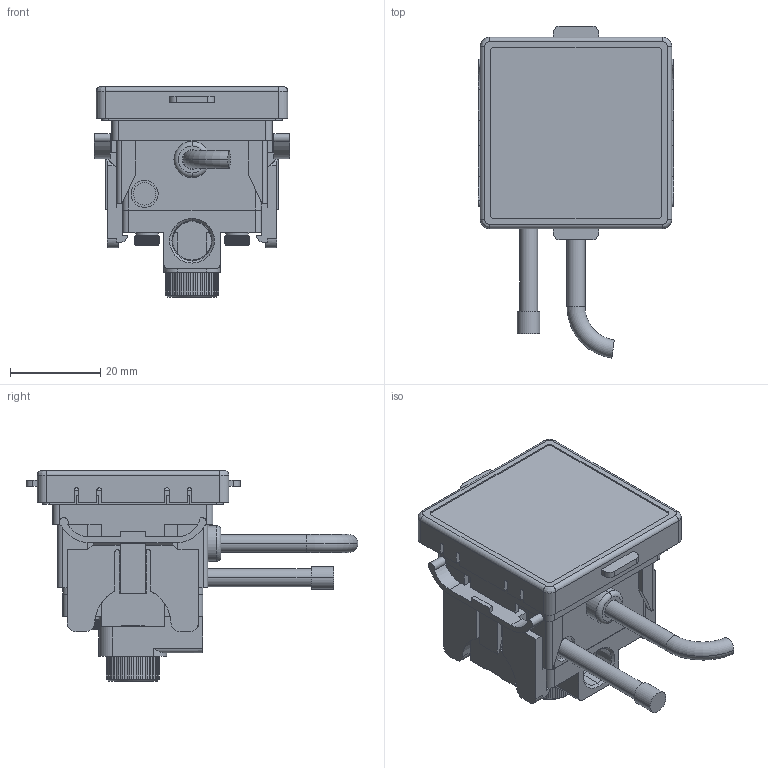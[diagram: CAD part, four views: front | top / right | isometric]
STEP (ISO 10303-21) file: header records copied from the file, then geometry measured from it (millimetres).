
FILE_DESCRIPTION((''),'2;1');
FILE_NAME('KP25_PA-B_ASM','2019-07-04T',('Stark'),(''),'CREO PARAMETRIC BY PTC INC, 2014500','CREO PARAMETRIC BY PTC INC, 2014500','');
FILE_SCHEMA(('CONFIG_CONTROL_DESIGN'));
Products named in the file (3): KP25_PA-A; P-0198-A2; KP25_PA-B_ASM
Assembly tree (2 placements, depth 2):
  KP25_PA-B_ASM
    KP25_PA-A
    P-0198-A2
Bounding box: 43.3 x 73.53 x 46.7 mm (x, y, z)
Volume: 40732.5 mm3; surface area: 20328.5 mm2
Topology: 3 solids, 5 shells, 1733 faces, 4732 edges, 3017 vertices
Faces by surface type: plane 1076, cylinder 351, bspline 204, cone 86, torus 14, extrusion 2
Entity records: 68000 total; most frequent: CARTESIAN_POINT 25656, ORIENTED_EDGE 9460, DIRECTION 7845, EDGE_CURVE 4730, VECTOR 3163, LINE 3161, VERTEX_POINT 3017, AXIS2_PLACEMENT_3D 2341
